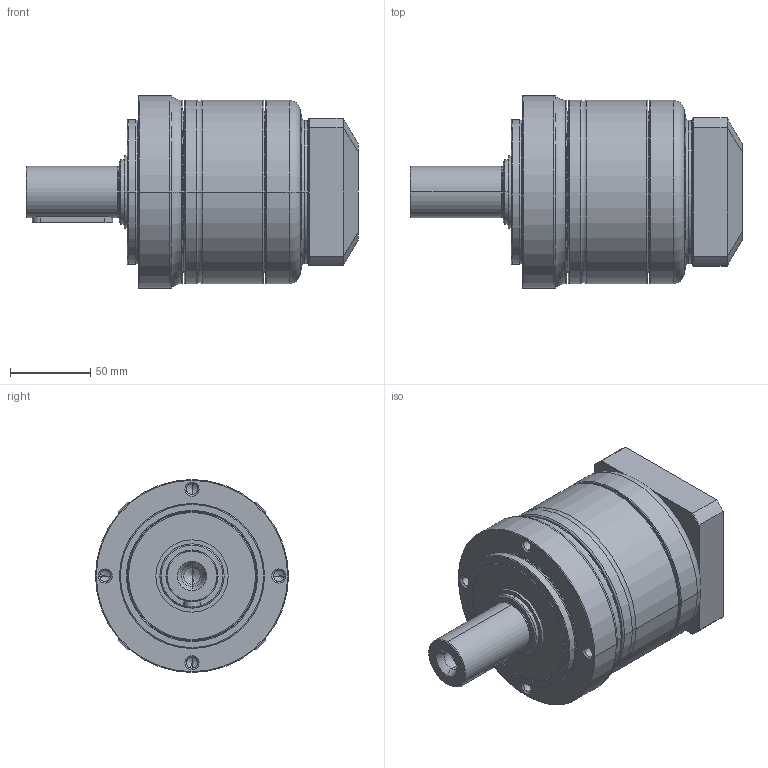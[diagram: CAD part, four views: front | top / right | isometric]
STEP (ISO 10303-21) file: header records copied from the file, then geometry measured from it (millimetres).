
FILE_DESCRIPTION((''),'2;1');
FILE_NAME('PE2-120_1ST_19-P0411400101_ASM','2017-05-31T',('d01943'),(''),'PRO/ENGINEER BY PARAMETRIC TECHNOLOGY CORPORATION, 2008410','PRO/ENGINEER BY PARAMETRIC TECHNOLOGY CORPORATION, 2008410','');
FILE_SCHEMA(('CONFIG_CONTROL_DESIGN'));
Length unit declared in the file: millimetre
Products named in the file (9): P1323410001; P0250400001; P1324400001; P0350401001; P0941400001; P0503400008; P0411400101; P1702500001; PE2-120_1ST_19-P0411400101_ASM
Assembly tree (8 placements, depth 2):
  PE2-120_1ST_19-P0411400101_ASM
    P1323410001
    P0250400001
    P1324400001
    P0350401001
    P0941400001
    P0503400008
    P0411400101
    P1702500001
Bounding box: 206.5 x 120 x 120 mm (x, y, z)
Volume: 1124234.2 mm3; surface area: 200697.8 mm2
Topology: 8 solids, 8 shells, 465 faces, 1019 edges, 584 vertices
Faces by surface type: cone 138, cylinder 136, torus 98, plane 77, bspline 16
Entity records: 17400 total; most frequent: CARTESIAN_POINT 6972, DIRECTION 2377, ORIENTED_EDGE 1974, AXIS2_PLACEMENT_3D 1021, EDGE_CURVE 987, VERTEX_POINT 584, CIRCLE 555, EDGE_LOOP 527
